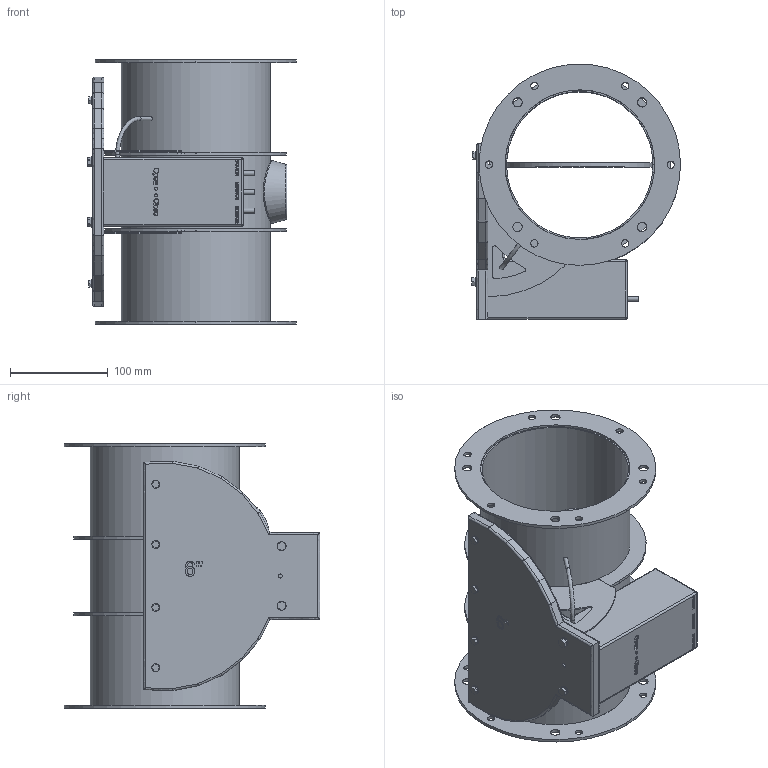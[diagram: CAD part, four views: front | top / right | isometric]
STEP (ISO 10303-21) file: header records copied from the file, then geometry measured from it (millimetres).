
FILE_DESCRIPTION( ('This file contains a STEP AP42 implementation' ,'as created by ZW3D STEP Interface translator.') ,'2;1' );
FILE_NAME( '3D Model-06_2M0 Butterfly Body with drive.stp' ,'201125. 920 7', (''), ('ZWCAD Software Co.'), 'Version 1.0', 'ZW3D to STEP translator', '' );
FILE_SCHEMA(('AUTOMOTIVE_DESIGN'));
Length unit declared in the file: millimetre
Products named in the file (1): 0
Bounding box: 213.39 x 261.11 x 270 mm (x, y, z)
Volume: 1452336.9 mm3; surface area: 548710.2 mm2
Topology: 16 solids, 16 shells, 736 faces, 1916 edges, 1310 vertices
Faces by surface type: bspline 736
Entity records: 26425 total; most frequent: CARTESIAN_POINT 14156, ORIENTED_EDGE 3732, EDGE_CURVE 1866, B_SPLINE_CURVE_WITH_KNOTS 1567, VERTEX_POINT 1216, EDGE_LOOP 866, FACE_OUTER_BOUND 736, ADVANCED_FACE 736
